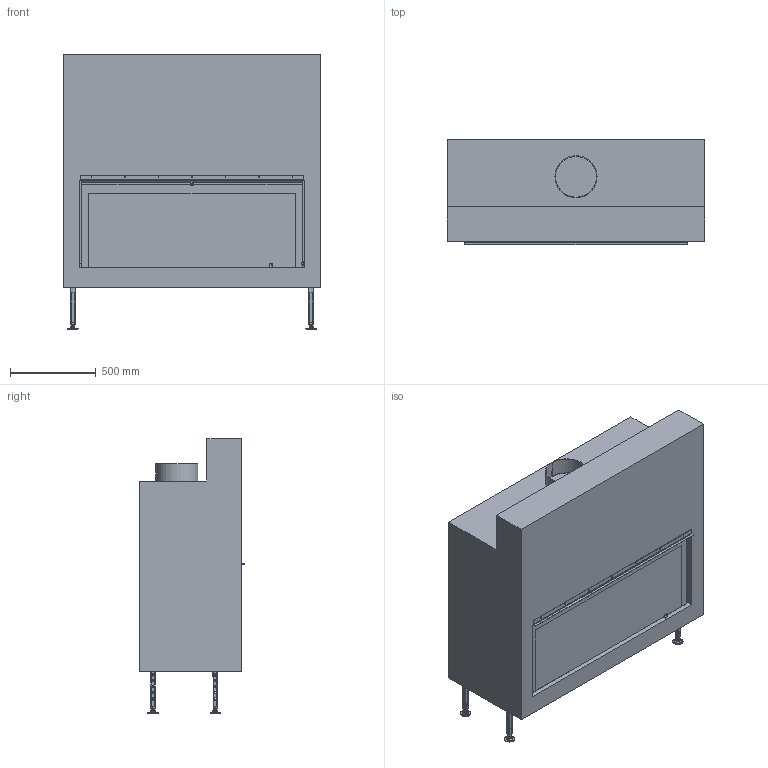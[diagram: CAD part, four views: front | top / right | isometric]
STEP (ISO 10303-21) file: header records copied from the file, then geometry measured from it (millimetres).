
FILE_DESCRIPTION(('Creo Elements/Direct Modeling STEP Export'),'2;1');
FILE_NAME('ULTIME C MF 1300-50 WHE 1S.stp','2020-02-10T15:04:47',(''),(''),'PTC Creo Elements/Direct Modeling STEP processor for AP214 (Solid Model)','PTC Creo Elements/Direct Modeling 19.0B 21-Mar-2015 (C) Parametric Technology GmbH','');
FILE_SCHEMA(('AUTOMOTIVE_DESIGN { 1 0 10303 214 1 1 1 1 }'));
Length unit declared in the file: millimetre
Products named in the file (2): Ultime_C_MF_1300-50_Chassis; Ultime_C_MF_1300-50_WHE_1S
Assembly tree (1 placements, depth 2):
  Ultime_C_MF_1300-50_WHE_1S
    Ultime_C_MF_1300-50_Chassis
Bounding box: 1500 x 616 x 1599.75 mm (x, y, z)
Volume: 712200142.8 mm3; surface area: 12252162.7 mm2
Topology: 1 solids, 5 shells, 1123 faces, 3021 edges, 1937 vertices
Faces by surface type: plane 637, cylinder 328, cone 150, sphere 8
Entity records: 31943 total; most frequent: ORIENTED_EDGE 6026, CARTESIAN_POINT 5521, DIRECTION 4821, EDGE_CURVE 3013, VERTEX_POINT 1937, VECTOR 1765, LINE 1765, AXIS2_PLACEMENT_3D 1528
